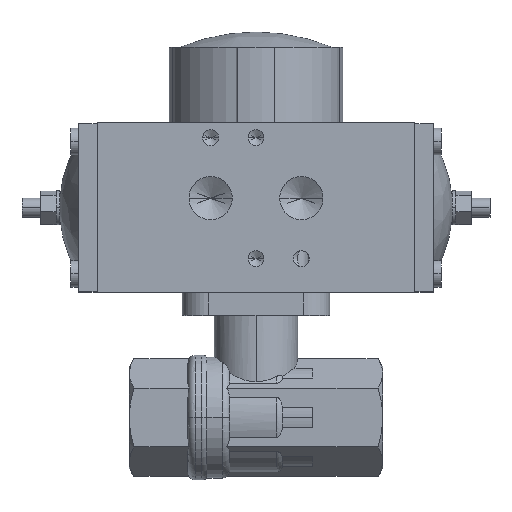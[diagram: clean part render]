
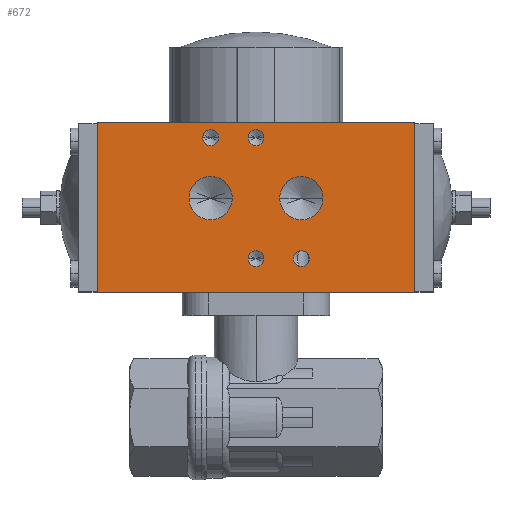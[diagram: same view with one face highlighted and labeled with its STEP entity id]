
A CAD part, top view. The second image highlights one B-rep face of the part: STEP entity #672.
In plain terms, the highlighted planar face has unit normal (0, 0, 1) as drawn and (1, 0, 0) by its records, which use the part's own axes.
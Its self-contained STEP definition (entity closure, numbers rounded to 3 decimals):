
#466 = EDGE_CURVE ( 'NONE', #1350, #1351, #12063, .T. ) ;
#472 = EDGE_CURVE ( 'NONE', #1355, #1356, #12071, .T. ) ;
#478 = EDGE_CURVE ( 'NONE', #1361, #1362, #12080, .T. ) ;
#484 = EDGE_CURVE ( 'NONE', #1366, #1367, #12087, .T. ) ;
#490 = EDGE_CURVE ( 'NONE', #1371, #1372, #12095, .T. ) ;
#496 = EDGE_CURVE ( 'NONE', #1376, #1377, #12103, .T. ) ;
#672 = ADVANCED_FACE ( 'NONE', ( #6210, #6206, #6213, #6215, #6209, #6211, #6212 ), #6214, .T. ) ;
#849 = EDGE_CURVE ( 'NONE', #1501, #1502, #6880, .T. ) ;
#857 = EDGE_CURVE ( 'NONE', #1510, #1511, #6913, .T. ) ;
#869 = EDGE_CURVE ( 'NONE', #1502, #1511, #6941, .T. ) ;
#870 = EDGE_CURVE ( 'NONE', #1351, #1350, #7134, .T. ) ;
#871 = EDGE_CURVE ( 'NONE', #1356, #1355, #7135, .T. ) ;
#872 = EDGE_CURVE ( 'NONE', #1362, #1361, #7137, .T. ) ;
#873 = EDGE_CURVE ( 'NONE', #1367, #1366, #7139, .T. ) ;
#874 = EDGE_CURVE ( 'NONE', #1372, #1371, #7141, .T. ) ;
#875 = EDGE_CURVE ( 'NONE', #1377, #1376, #7143, .T. ) ;
#876 = EDGE_CURVE ( 'NONE', #1501, #1510, #6962, .T. ) ;
#1350 = VERTEX_POINT ( 'NONE', #9068 ) ;
#1351 = VERTEX_POINT ( 'NONE', #9069 ) ;
#1355 = VERTEX_POINT ( 'NONE', #9073 ) ;
#1356 = VERTEX_POINT ( 'NONE', #9074 ) ;
#1361 = VERTEX_POINT ( 'NONE', #9079 ) ;
#1362 = VERTEX_POINT ( 'NONE', #9080 ) ;
#1366 = VERTEX_POINT ( 'NONE', #9084 ) ;
#1367 = VERTEX_POINT ( 'NONE', #9085 ) ;
#1371 = VERTEX_POINT ( 'NONE', #9089 ) ;
#1372 = VERTEX_POINT ( 'NONE', #9090 ) ;
#1376 = VERTEX_POINT ( 'NONE', #9094 ) ;
#1377 = VERTEX_POINT ( 'NONE', #9095 ) ;
#1501 = VERTEX_POINT ( 'NONE', #9219 ) ;
#1502 = VERTEX_POINT ( 'NONE', #9220 ) ;
#1510 = VERTEX_POINT ( 'NONE', #9228 ) ;
#1511 = VERTEX_POINT ( 'NONE', #9229 ) ;
#1736 = ORIENTED_EDGE ( 'NONE', *, *, #870, .F. ) ;
#1737 = ORIENTED_EDGE ( 'NONE', *, *, #466, .F. ) ;
#1738 = ORIENTED_EDGE ( 'NONE', *, *, #871, .F. ) ;
#1739 = ORIENTED_EDGE ( 'NONE', *, *, #472, .F. ) ;
#1740 = ORIENTED_EDGE ( 'NONE', *, *, #872, .F. ) ;
#1741 = ORIENTED_EDGE ( 'NONE', *, *, #478, .F. ) ;
#1742 = ORIENTED_EDGE ( 'NONE', *, *, #873, .F. ) ;
#1743 = ORIENTED_EDGE ( 'NONE', *, *, #484, .F. ) ;
#1744 = ORIENTED_EDGE ( 'NONE', *, *, #874, .F. ) ;
#1745 = ORIENTED_EDGE ( 'NONE', *, *, #490, .F. ) ;
#1746 = ORIENTED_EDGE ( 'NONE', *, *, #875, .F. ) ;
#1747 = ORIENTED_EDGE ( 'NONE', *, *, #496, .F. ) ;
#1748 = ORIENTED_EDGE ( 'NONE', *, *, #869, .T. ) ;
#1749 = ORIENTED_EDGE ( 'NONE', *, *, #857, .F. ) ;
#1750 = ORIENTED_EDGE ( 'NONE', *, *, #876, .F. ) ;
#1751 = ORIENTED_EDGE ( 'NONE', *, *, #849, .T. ) ;
#2368 = EDGE_LOOP ( 'NONE', ( #1738, #1739 ) ) ;
#2369 = EDGE_LOOP ( 'NONE', ( #1742, #1743 ) ) ;
#2370 = EDGE_LOOP ( 'NONE', ( #1744, #1745 ) ) ;
#2371 = EDGE_LOOP ( 'NONE', ( #1746, #1747 ) ) ;
#2372 = EDGE_LOOP ( 'NONE', ( #1740, #1741 ) ) ;
#2373 = EDGE_LOOP ( 'NONE', ( #1736, #1737 ) ) ;
#2374 = EDGE_LOOP ( 'NONE', ( #1748, #1749, #1750, #1751 ) ) ;
#5002 = CARTESIAN_POINT ( 'NONE',  ( 28.5, 18.5, 12. ) ) ;
#5003 = DIRECTION ( 'NONE',  ( 1., 0., 0. ) ) ;
#5004 = DIRECTION ( 'NONE',  ( 0., 0., -1. ) ) ;
#5018 = CARTESIAN_POINT ( 'NONE',  ( 28.5, -13.5, -12. ) ) ;
#5019 = DIRECTION ( 'NONE',  ( 1., 0., 0. ) ) ;
#5020 = DIRECTION ( 'NONE',  ( 0., 0., -1. ) ) ;
#5047 = CARTESIAN_POINT ( 'NONE',  ( 28.5, -13.5, 0. ) ) ;
#5048 = DIRECTION ( 'NONE',  ( 1., 0., 0. ) ) ;
#5049 = DIRECTION ( 'NONE',  ( 0., 0., -1. ) ) ;
#5065 = CARTESIAN_POINT ( 'NONE',  ( 28.5, 18.5, 0. ) ) ;
#5066 = DIRECTION ( 'NONE',  ( 1., 0., 0. ) ) ;
#5067 = DIRECTION ( 'NONE',  ( 0., 0., -1. ) ) ;
#5083 = CARTESIAN_POINT ( 'NONE',  ( 28.5, 2.5, -12. ) ) ;
#5084 = DIRECTION ( 'NONE',  ( 1., 0., 0. ) ) ;
#5085 = DIRECTION ( 'NONE',  ( 0., 0., -1. ) ) ;
#5096 = CARTESIAN_POINT ( 'NONE',  ( 28.5, 2.5, 12. ) ) ;
#5097 = DIRECTION ( 'NONE',  ( 1., 0., 0. ) ) ;
#5098 = DIRECTION ( 'NONE',  ( 0., 0., -1. ) ) ;
#6202 = CARTESIAN_POINT ( 'NONE',  ( 28.5, -22.5, -42. ) ) ;
#6206 = FACE_BOUND ( 'NONE', #2368, .T. ) ;
#6209 = FACE_BOUND ( 'NONE', #2370, .T. ) ;
#6210 = FACE_BOUND ( 'NONE', #2373, .T. ) ;
#6211 = FACE_BOUND ( 'NONE', #2371, .T. ) ;
#6212 = FACE_OUTER_BOUND ( 'NONE', #2374, .T. ) ;
#6213 = FACE_BOUND ( 'NONE', #2372, .T. ) ;
#6214 = PLANE ( 'NONE',  #12363 ) ;
#6215 = FACE_BOUND ( 'NONE', #2369, .T. ) ;
#6218 = DIRECTION ( 'NONE',  ( 1., 0., 0. ) ) ;
#6219 = DIRECTION ( 'NONE',  ( 0., 0., -1. ) ) ;
#6880 = LINE ( 'NONE', #6890, #7108 ) ;
#6890 = CARTESIAN_POINT ( 'NONE',  ( 28.5, -22.5, -42. ) ) ;
#6892 = DIRECTION ( 'NONE',  ( 0., 1., 0. ) ) ;
#6913 = LINE ( 'NONE', #6914, #7117 ) ;
#6914 = CARTESIAN_POINT ( 'NONE',  ( 28.5, -22.5, 42. ) ) ;
#6915 = DIRECTION ( 'NONE',  ( 0., 1., 0. ) ) ;
#6941 = LINE ( 'NONE', #6942, #7132 ) ;
#6942 = CARTESIAN_POINT ( 'NONE',  ( 28.5, 22.5, -42. ) ) ;
#6949 = DIRECTION ( 'NONE',  ( 0., 0., 1. ) ) ;
#6950 = CARTESIAN_POINT ( 'NONE',  ( 28.5, 18.5, 12. ) ) ;
#6951 = DIRECTION ( 'NONE',  ( 1., 0., 0. ) ) ;
#6952 = DIRECTION ( 'NONE',  ( 0., 0., -1. ) ) ;
#6953 = CARTESIAN_POINT ( 'NONE',  ( 28.5, -13.5, -12. ) ) ;
#6954 = DIRECTION ( 'NONE',  ( 1., 0., 0. ) ) ;
#6955 = DIRECTION ( 'NONE',  ( 0., 0., -1. ) ) ;
#6956 = CARTESIAN_POINT ( 'NONE',  ( 28.5, -13.5, 0. ) ) ;
#6957 = DIRECTION ( 'NONE',  ( 1., 0., 0. ) ) ;
#6958 = DIRECTION ( 'NONE',  ( 0., 0., -1. ) ) ;
#6959 = CARTESIAN_POINT ( 'NONE',  ( 28.5, 18.5, 0. ) ) ;
#6960 = DIRECTION ( 'NONE',  ( 1., 0., 0. ) ) ;
#6961 = DIRECTION ( 'NONE',  ( 0., 0., -1. ) ) ;
#6962 = LINE ( 'NONE', #6963, #7145 ) ;
#6963 = CARTESIAN_POINT ( 'NONE',  ( 28.5, -22.5, -42. ) ) ;
#6964 = CARTESIAN_POINT ( 'NONE',  ( 28.5, 2.5, -12. ) ) ;
#6965 = DIRECTION ( 'NONE',  ( 1., 0., 0. ) ) ;
#6966 = DIRECTION ( 'NONE',  ( 0., 0., -1. ) ) ;
#6967 = CARTESIAN_POINT ( 'NONE',  ( 28.5, 2.5, 12. ) ) ;
#6968 = DIRECTION ( 'NONE',  ( 1., 0., 0. ) ) ;
#6969 = DIRECTION ( 'NONE',  ( 0., 0., -1. ) ) ;
#6970 = DIRECTION ( 'NONE',  ( 0., 0., 1. ) ) ;
#7108 = VECTOR ( 'NONE', #6892, 1000. ) ;
#7117 = VECTOR ( 'NONE', #6915, 1000. ) ;
#7132 = VECTOR ( 'NONE', #6949, 1000. ) ;
#7134 = CIRCLE ( 'NONE', #7136, 2.1 ) ;
#7135 = CIRCLE ( 'NONE', #7138, 2.1 ) ;
#7136 = AXIS2_PLACEMENT_3D ( 'NONE', #6950, #6951, #6952 ) ;
#7137 = CIRCLE ( 'NONE', #7140, 2.1 ) ;
#7138 = AXIS2_PLACEMENT_3D ( 'NONE', #6953, #6954, #6955 ) ;
#7139 = CIRCLE ( 'NONE', #7142, 2.1 ) ;
#7140 = AXIS2_PLACEMENT_3D ( 'NONE', #6956, #6957, #6958 ) ;
#7141 = CIRCLE ( 'NONE', #7144, 5.722 ) ;
#7142 = AXIS2_PLACEMENT_3D ( 'NONE', #6959, #6960, #6961 ) ;
#7143 = CIRCLE ( 'NONE', #7146, 5.722 ) ;
#7144 = AXIS2_PLACEMENT_3D ( 'NONE', #6964, #6965, #6966 ) ;
#7145 = VECTOR ( 'NONE', #6970, 1000. ) ;
#7146 = AXIS2_PLACEMENT_3D ( 'NONE', #6967, #6968, #6969 ) ;
#9068 = CARTESIAN_POINT ( 'NONE',  ( 28.5, 18.5, 14.1 ) ) ;
#9069 = CARTESIAN_POINT ( 'NONE',  ( 28.5, 18.5, 9.9 ) ) ;
#9073 = CARTESIAN_POINT ( 'NONE',  ( 28.5, -13.5, -9.9 ) ) ;
#9074 = CARTESIAN_POINT ( 'NONE',  ( 28.5, -13.5, -14.1 ) ) ;
#9079 = CARTESIAN_POINT ( 'NONE',  ( 28.5, -13.5, 2.1 ) ) ;
#9080 = CARTESIAN_POINT ( 'NONE',  ( 28.5, -13.5, -2.1 ) ) ;
#9084 = CARTESIAN_POINT ( 'NONE',  ( 28.5, 18.5, 2.1 ) ) ;
#9085 = CARTESIAN_POINT ( 'NONE',  ( 28.5, 18.5, -2.1 ) ) ;
#9089 = CARTESIAN_POINT ( 'NONE',  ( 28.5, 2.5, -6.277 ) ) ;
#9090 = CARTESIAN_POINT ( 'NONE',  ( 28.5, 2.5, -17.722 ) ) ;
#9094 = CARTESIAN_POINT ( 'NONE',  ( 28.5, 2.5, 17.722 ) ) ;
#9095 = CARTESIAN_POINT ( 'NONE',  ( 28.5, 2.5, 6.277 ) ) ;
#9219 = CARTESIAN_POINT ( 'NONE',  ( 28.5, -22.5, -42. ) ) ;
#9220 = CARTESIAN_POINT ( 'NONE',  ( 28.5, 22.5, -42. ) ) ;
#9228 = CARTESIAN_POINT ( 'NONE',  ( 28.5, -22.5, 42. ) ) ;
#9229 = CARTESIAN_POINT ( 'NONE',  ( 28.5, 22.5, 42. ) ) ;
#12063 = CIRCLE ( 'NONE', #12067, 2.1 ) ;
#12067 = AXIS2_PLACEMENT_3D ( 'NONE', #5002, #5003, #5004 ) ;
#12071 = CIRCLE ( 'NONE', #12075, 2.1 ) ;
#12075 = AXIS2_PLACEMENT_3D ( 'NONE', #5018, #5019, #5020 ) ;
#12080 = CIRCLE ( 'NONE', #12083, 2.1 ) ;
#12083 = AXIS2_PLACEMENT_3D ( 'NONE', #5047, #5048, #5049 ) ;
#12087 = CIRCLE ( 'NONE', #12091, 2.1 ) ;
#12091 = AXIS2_PLACEMENT_3D ( 'NONE', #5065, #5066, #5067 ) ;
#12095 = CIRCLE ( 'NONE', #12099, 5.722 ) ;
#12099 = AXIS2_PLACEMENT_3D ( 'NONE', #5083, #5084, #5085 ) ;
#12103 = CIRCLE ( 'NONE', #12107, 5.722 ) ;
#12107 = AXIS2_PLACEMENT_3D ( 'NONE', #5096, #5097, #5098 ) ;
#12363 = AXIS2_PLACEMENT_3D ( 'NONE', #6202, #6218, #6219 ) ;
